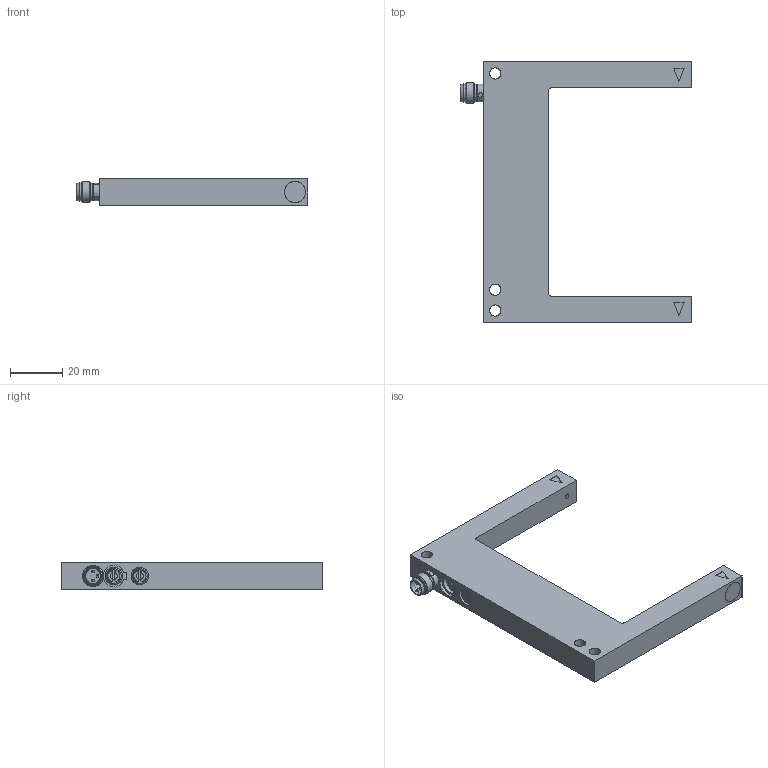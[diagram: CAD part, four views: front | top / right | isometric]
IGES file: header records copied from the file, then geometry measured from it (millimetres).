
Start section: C
Global section: file name: OG080U.x-xxxx.7xL.igs; native system: By Siemens PLM Incorporated; preprocessor: XPlus GENERIC/IGES 19.0.9; author: Author; organization: Title; date: 20200918.090128; units: millimetre
Bounding box: 89 x 100 x 10 mm (x, y, z)
Surface area: 13051.9 mm2 (no closed solid volume)
Topology: 0 solids, 0 shells, 125 faces, 661 edges, 658 vertices
Faces by surface type: bspline 125
